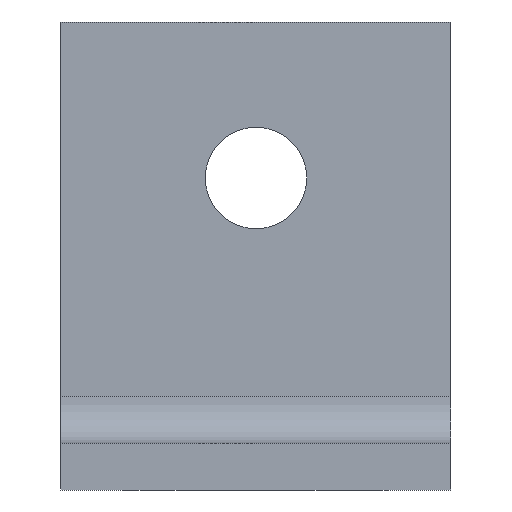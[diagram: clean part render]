
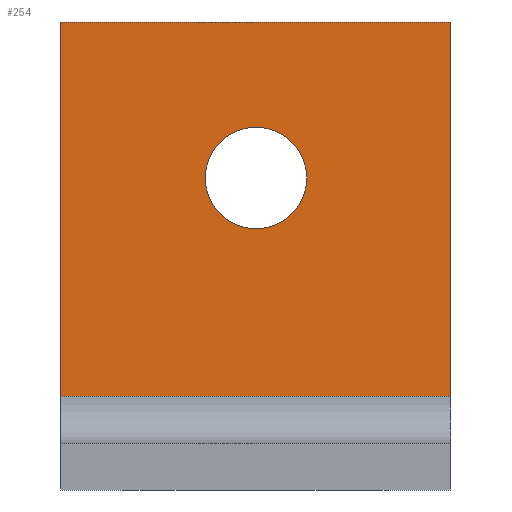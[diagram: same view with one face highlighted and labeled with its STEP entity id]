
A CAD part, front view. The second image highlights one B-rep face of the part: STEP entity #254.
In plain terms, the highlighted planar face has unit normal (0, -1, 0).
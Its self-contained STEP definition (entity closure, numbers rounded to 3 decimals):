
#73=CARTESIAN_POINT('',(3.25,-3.,20.0));
#74=VERTEX_POINT('',#73);
#75=CARTESIAN_POINT('',(0.0,-3.,20.0));
#76=DIRECTION('',(0.0,1.0,0.0));
#77=DIRECTION('',(-1.0,0.0,0.0));
#78=AXIS2_PLACEMENT_3D('',#75,#76,#77);
#79=CIRCLE('',#78,3.25);
#80=EDGE_CURVE('',#74,#74,#79,.T.);
#144=CARTESIAN_POINT('',(-12.5,-3.,30.0));
#145=VERTEX_POINT('',#144);
#146=CARTESIAN_POINT('',(-12.5,-3.,6.));
#147=VERTEX_POINT('',#146);
#148=CARTESIAN_POINT('',(-12.5,-3.,30.0));
#149=DIRECTION('',(0.0,0.0,-1.0));
#150=VECTOR('',#149,24.);
#151=LINE('',#148,#150);
#152=EDGE_CURVE('',#145,#147,#151,.T.);
#210=CARTESIAN_POINT('',(12.5,-3.,30.0));
#211=VERTEX_POINT('',#210);
#212=CARTESIAN_POINT('',(12.5,-3.,30.0));
#213=DIRECTION('',(-1.0,0.0,0.0));
#214=VECTOR('',#213,25.0);
#215=LINE('',#212,#214);
#216=EDGE_CURVE('',#211,#145,#215,.T.);
#228=CARTESIAN_POINT('',(12.5,-3.,30.0));
#229=DIRECTION('',(0.0,-1.0,0.0));
#230=DIRECTION('',(0.0,0.0,-1.0));
#231=AXIS2_PLACEMENT_3D('',#228,#229,#230);
#232=PLANE('',#231);
#233=CARTESIAN_POINT('',(12.5,-3.,6.));
#234=VERTEX_POINT('',#233);
#235=CARTESIAN_POINT('',(12.5,-3.,6.));
#236=DIRECTION('',(-1.0,0.0,0.0));
#237=VECTOR('',#236,25.0);
#238=LINE('',#235,#237);
#239=EDGE_CURVE('',#234,#147,#238,.T.);
#240=ORIENTED_EDGE('',*,*,#239,.F.);
#241=CARTESIAN_POINT('',(12.5,-3.,6.));
#242=DIRECTION('',(0.0,0.0,1.0));
#243=VECTOR('',#242,24.);
#244=LINE('',#241,#243);
#245=EDGE_CURVE('',#234,#211,#244,.T.);
#246=ORIENTED_EDGE('',*,*,#245,.T.);
#247=ORIENTED_EDGE('',*,*,#216,.T.);
#248=ORIENTED_EDGE('',*,*,#152,.T.);
#249=EDGE_LOOP('',(#240,#246,#247,#248));
#250=FACE_OUTER_BOUND('',#249,.T.);
#251=ORIENTED_EDGE('',*,*,#80,.T.);
#252=EDGE_LOOP('',(#251));
#253=FACE_BOUND('',#252,.T.);
#254=ADVANCED_FACE('',(#250,#253),#232,.T.);
